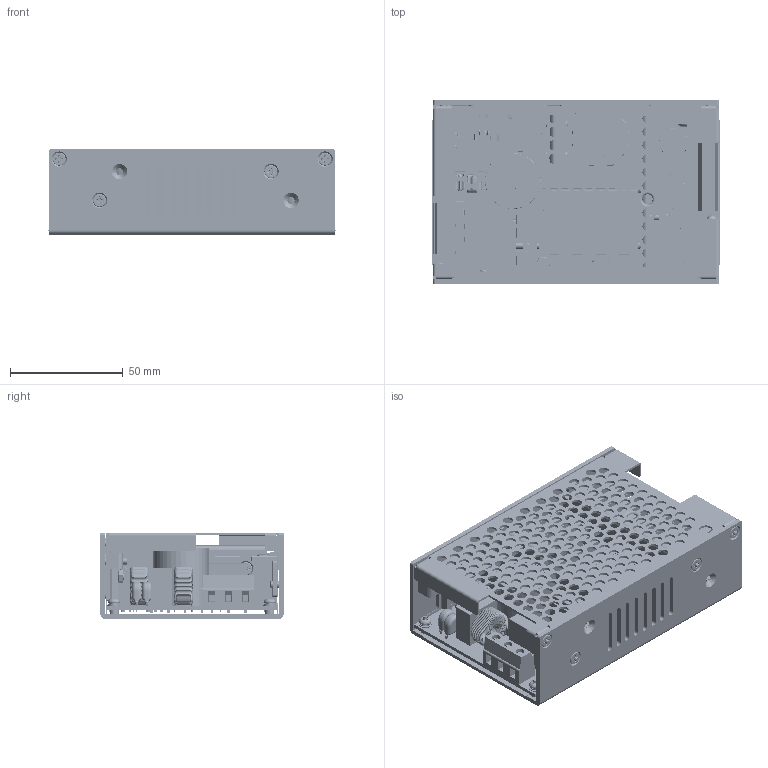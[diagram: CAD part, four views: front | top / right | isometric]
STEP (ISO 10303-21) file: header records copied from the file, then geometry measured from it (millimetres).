
FILE_DESCRIPTION(/* description */ (''),/* implementation_level */ '2;1');
FILE_NAME(/* name */ 'D:\Inventor\3D Files\200508\AQF120E B TYPE.stp',/* time_stamp */ '2020-04-23T16:22:12+08:00',/* author */ ('peter'),/* organization */ (''),/* preprocessor_version */ 'ST-DEVELOPER v15.2',/* originating_system */ 'Autodesk Inventor 2014',/* authorisation */ '');
FILE_SCHEMA (('AUTOMOTIVE_DESIGN { 1 0 10303 214 3 1 1 }'));
Products named in the file (43): BOT CASE; M3 - 4mm; M3 - 2mm; PCB; X3 HEATSINK; INSULATOR TO-220; I HEATSINK; SCREW PH M3_12 mm; X2 HEATSINK; SCREW PH M3_10 mm; X1 HEATSINK; TO-220FP; TO-220FP_1; SCREW CH_W  M3_8mm; BD1; SCREW PH M3_8mm; M3; VR; LED; L1; L1_1; Y -- C; Y -- C_1; Y -- C_2; Y -- C_3; Y -- C_4; LABEL - 12S; DT-128-01; INLET 3P; INLET 4P; PCB - B TYPE; MYLAR - CASE 1; P100 _ 50 X 35 mm; SCREW PH M3_6mm; THREADED CLIP Max; SCREW CH_W  M3_6mm; AQF120U B TYPE; TOP CASE; AQF120E B TYPE
Bounding box: 128 x 81.4 x 38.1 mm (x, y, z)
Volume: 165266.6 mm3; surface area: 169608.5 mm2
Topology: 81 solids, 255 shells, 8560 faces, 17368 edges, 9167 vertices
Faces by surface type: cylinder 3314, torus 2927, plane 1890, bspline 260, cone 152, sphere 17
Full cylindrical faces by diameter (mm): 0.45 x3, 0.5 x1, 0.6 x16, 1.85 x2, 2.459 x27, 3 x18, 3.1 x6, 3.2 x22, 3.5 x7, 3.8 x7, 4 x11, 4.1 x11, 4.219 x1, 4.5 x227, 4.7 x1, 5.8 x18, 6 x2, 6.129 x1, 6.353 x1, 8.825 x1, 8.853 x1, 9.476 x1, 10.037 x1, 10.297 x1, 12.809 x2, 12.995 x1, 19.003 x1, 24.791 x1
Entity records: 212982 total; most frequent: CARTESIAN_POINT 52977, DIRECTION 36226, ORIENTED_EDGE 32098, AXIS2_PLACEMENT_3D 15996, EDGE_CURVE 14652, EDGE_LOOP 8794, CIRCLE 7735, ADVANCED_FACE 7633
